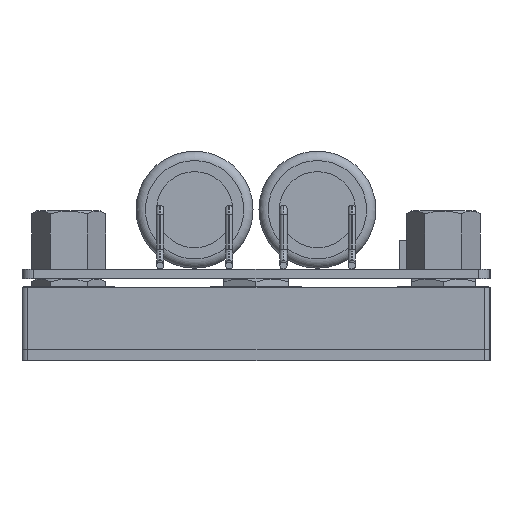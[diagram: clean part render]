
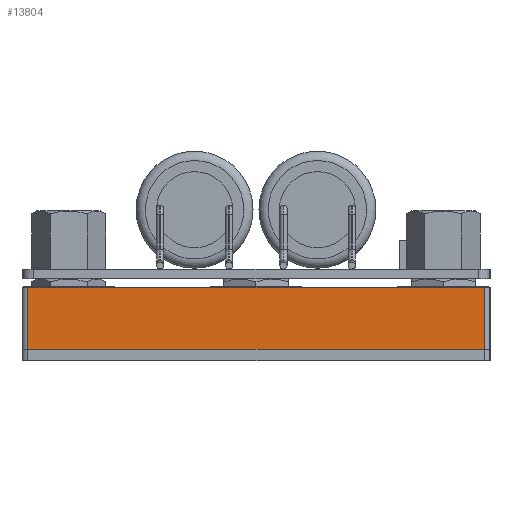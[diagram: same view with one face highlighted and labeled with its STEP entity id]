
A CAD part, left-side view. The second image highlights one B-rep face of the part: STEP entity #13804.
In plain terms, the highlighted planar face has unit normal (-1, 0, 0).
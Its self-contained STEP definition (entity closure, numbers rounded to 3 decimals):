
#1889=VECTOR('',#16276,1.);
#2042=VECTOR('',#16486,1.);
#2171=VECTOR('',#16733,1.);
#2173=VECTOR('',#16736,1.);
#3070=LINE('',#21491,#1889);
#3223=LINE('',#21824,#2042);
#3352=LINE('',#22120,#2171);
#3354=LINE('',#22123,#2173);
#3854=PLANE('',#14580);
#4730=VERTEX_POINT('',#21490);
#4731=VERTEX_POINT('',#21492);
#4866=VERTEX_POINT('',#21823);
#4867=VERTEX_POINT('',#21825);
#6756=EDGE_CURVE('',#4731,#4730,#3070,.T.);
#6922=EDGE_CURVE('',#4867,#4866,#3223,.T.);
#7063=EDGE_CURVE('',#4866,#4731,#3352,.T.);
#7065=EDGE_CURVE('',#4867,#4730,#3354,.T.);
#10486=ORIENTED_EDGE('',*,*,#6756,.T.);
#10487=ORIENTED_EDGE('',*,*,#7065,.F.);
#10488=ORIENTED_EDGE('',*,*,#6922,.T.);
#10489=ORIENTED_EDGE('',*,*,#7063,.T.);
#12073=EDGE_LOOP('',(#10486,#10487,#10488,#10489));
#12983=FACE_BOUND('',#12073,.T.);
#13804=ADVANCED_FACE('',(#12983),#3854,.T.);
#14580=AXIS2_PLACEMENT_3D('',#22122,#16735,$);
#16276=DIRECTION('',(0.,1.,0.));
#16486=DIRECTION('',(0.,-1.,0.));
#16733=DIRECTION('',(0.,0.,1.));
#16735=DIRECTION('',(-1.,0.,0.));
#16736=DIRECTION('',(0.,0.,1.));
#21490=CARTESIAN_POINT('',(-35.,19.5,5.3));
#21491=CARTESIAN_POINT('',(-35.,19.5,5.3));
#21492=CARTESIAN_POINT('',(-35.,-19.5,5.3));
#21823=CARTESIAN_POINT('',(-35.,-19.5,0.));
#21824=CARTESIAN_POINT('',(-35.,19.5,0.));
#21825=CARTESIAN_POINT('',(-35.,19.5,0.));
#22120=CARTESIAN_POINT('',(-35.,-19.5,0.));
#22122=CARTESIAN_POINT('',(-35.,0.,0.));
#22123=CARTESIAN_POINT('',(-35.,19.5,0.));
